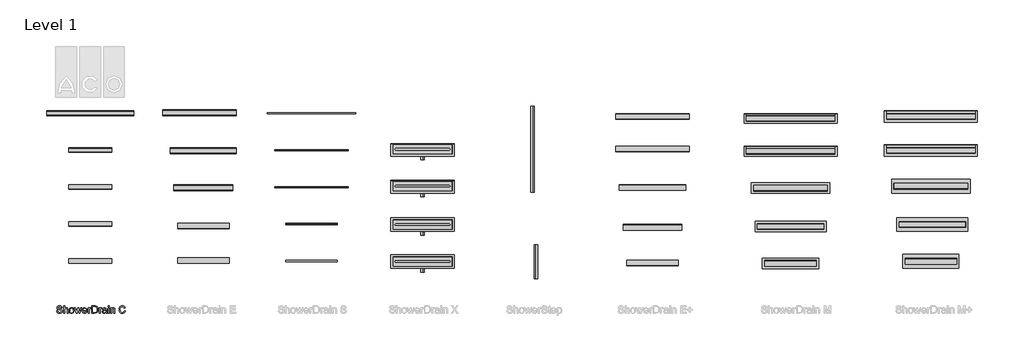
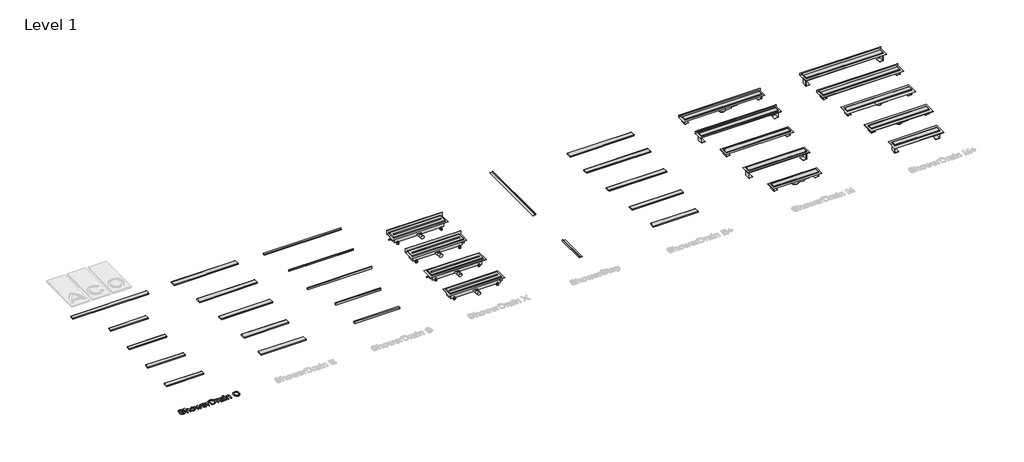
# One storey, part 1 of 3: 46 sanitary terminals, 4 pipe fittings, 1 proxy.
"""IFC4 building model written with IfcOpenShell, lengths in millimetres."""

from ifc_helpers import new_model, si_unit, origin, origin_with_axes, place, context, project, spatial, polyline, outline, extrude, transform, mapped, element, save
from components import std_nested_3c4184f0, flag_b67f4226, flag_560d45e0, flag_b26b8363, flag_c74ceb65, glass_black_c8336379, massive_920ba84a, piano_745113d3, solid_fc9fc66c, solid_5995f6f9, square_9a3e43a5, stripes_00212afd, stripes_9f4e3192, stripes_7ee481b2, tile_67cb4d68, horizontal_flange_236ca58d, horizontal_flange_b8bb8d62, horizontal_flange_0f5af5d9, horizontal_flange_2512d45c, horizontal_flange_630a0289, horizontal_flange_7874ed90, horizontal_flange_90231a54, horizontal_flange_18f63413, std_nested_bef6802e, std_nested_eaeeacca, wall_flange_076fe20c, wall_flange_3f105fa3, wall_flange_at_rear_5062b522, wall_flange_at_rear_d685a3a6, wall_flange_at_rear_e9290f7a, wall_flange_at_rear_4234e671

model = new_model("IFC4")

# Units and contexts
model_context = context("Model", 3, world=origin())
ifc_project = project(units=[si_unit("LENGTHUNIT", "METRE", prefix="MILLI")], contexts=[model_context])

# Site, building, storey
site = spatial("IfcSite", under=ifc_project)
building = spatial("IfcBuilding", under=site)
storey = spatial("IfcBuildingStorey", under=building, Name="Level 1", Elevation=0.0)

# Proxy
placement = place(None, origin())
element("IfcBuildingElementProxy", 1, Name="100mm ACO", ObjectType="100mm ACO", at=placement, inside=storey, context=model_context, shape_type="SweptSolid", body=[
    extrude(outline(polyline([(607.4074074, -629.6296296), (605.396412, -620.7356771), (600.9259259, -614.3663194), (584.6064815, -609.2592593), (568.9814815, -613.2378472), (564.4675926, -618.1242766), (562.962963, -624.8263889), (567.4334491, -634.8813657), (585.619213, -641.1747685), (605.4542824, -646.6579861), (618.6053241, -655.5844907), (622.7068866, -662.6663773), (624.0740741, -671.8171296), (621.5675637, -683.6552373), (614.0480324, -693.3015046), (602.4992766, -699.714265), (587.9050926, -701.8518519), (569.921875, -699.4791667), (557.1180556, -692.3611111), (549.3055556, -681.4670139), (546.2962963, -667.7662037), (559.2592593, -666.6666667), (561.8887442, -677.5426794), (568.0989583, -684.9971065), (576.9350405, -689.3048322), (587.4421296, -690.7407407), (604.5717593, -686.009838), (609.4762731, -680.4361979), (611.1111111, -673.1770833), (609.4220197, -665.8492477), (604.3547454, -660.8217593), (581.0763889, -653.3709491), (566.8655961, -649.0306713), (557.2771991, -643.1568287), (551.8192998, -635.5287905), (550.0, -625.9259259), (552.2822627, -614.9305556), (559.1290509, -606.0185185), (569.9110243, -600.1157407), (583.9988426, -598.1481481), (598.5604745, -600.1302083), (609.9537037, -606.0763889), (617.4623843, -615.6684028), (620.3703704, -628.587963), (607.4074074, -629.6296296)])), origin_with_axes(), (0.0, 0.0, 1.0), 10.0),
    extrude(outline(polyline([(700.0, -700.0), (687.037037, -700.0), (687.037037, -653.2986111), (683.3478009, -639.7135417), (672.337963, -635.1851852), (659.4039352, -640.5237269), (655.1287616, -647.9564525), (653.7037037, -659.5775463), (653.7037037, -700.0), (640.7407407, -700.0), (640.7407407, -600.0), (653.7037037, -600.0), (653.7037037, -635.8217593), (663.4042245, -628.3998843), (675.2604167, -625.9259259), (688.5416667, -628.7905093), (697.4392361, -637.6012731), (700.0, -654.1087963), (700.0, -700.0)])), origin_with_axes(), (0.0, 0.0, 1.0), 10.0),
    extrude(outline(polyline([(748.119213, -625.9259259), (761.2955729, -628.3203125), (772.0052083, -635.5034722), (779.1124132, -647.0992477), (781.4814815, -662.7314815), (778.9171007, -681.0040509), (771.2239583, -692.9976852), (760.3190104, -699.6383102), (748.119213, -701.8518519), (735.5287905, -699.5768229), (724.7251157, -692.7517361), (717.29239, -680.9859664), (714.8148148, -663.8888889), (717.2092014, -647.1715856), (724.3923611, -635.3298611), (735.1128472, -628.2769097), (748.119213, -625.9259259)]), holes=[polyline([(748.119213, -692.5925926), (756.92636, -690.5852141), (763.3246528, -684.5630787), (768.5185185, -663.4259259), (767.0500579, -651.1429398), (762.6446759, -642.3032407), (756.0763889, -636.9646991), (748.119213, -635.1851852), (740.0065104, -636.9900174), (733.4924769, -642.4045139), (729.2064525, -651.3925058), (727.7777778, -663.9178241), (729.2317708, -676.3997396), (733.59375, -685.3732639), (740.1331019, -690.7877604), (748.119213, -692.5925926)])]), origin_with_axes(), (0.0, 0.0, 1.0), 10.0),
    extrude(outline(polyline([(885.6481481, -627.7777778), (861.4293981, -700.0), (849.1608796, -700.0), (838.6574074, -656.5972222), (837.3553241, -650.7378472), (836.1111111, -644.3287037), (823.3506944, -700.0), (811.1111111, -700.0), (786.5740741, -627.7777778), (798.119213, -627.7777778), (815.7407407, -685.0115741), (817.8530093, -675.2604167), (828.8773148, -627.7777778), (843.4606481, -627.7777778), (852.1990741, -665.6539352), (856.25, -683.4490741), (874.1030093, -627.7777778), (885.6481481, -627.7777778)])), origin_with_axes(), (0.0, 0.0, 1.0), 10.0),
    extrude(outline(polyline([(959.2592593, -666.6666667), (905.5555556, -666.6666667), (907.6280382, -677.7922454), (912.3408565, -685.9375), (919.1225405, -690.9288194), (927.4016204, -692.5925926), (939.0769676, -688.9033565), (946.2962963, -677.7777778), (959.2592593, -679.2824074), (954.8828125, -688.9033565), (947.9456019, -696.0069444), (938.7008102, -700.390625), (927.4016204, -701.8518519), (912.8146701, -699.3453414), (901.8084491, -691.8258102), (894.8965567, -679.9660012), (892.5925926, -664.4386574), (894.8133681, -648.900463), (901.4756944, -636.6030093), (912.1744792, -628.5951968), (926.5046296, -625.9259259), (941.724537, -629.3836806), (954.1521991, -641.1603009), (957.9824942, -651.6963252), (959.2592593, -666.6666667)]), holes=[polyline([(946.2962963, -657.4074074), (944.212963, -647.2511574), (939.4675926, -640.3935185), (926.1863426, -635.1851852), (918.3304398, -636.7332176), (912.0081019, -641.3773148), (905.5555556, -657.4074074), (946.2962963, -657.4074074)])]), origin_with_axes(), (0.0, 0.0, 1.0), 10.0),
    extrude(outline(polyline([(1012.962963, -628.7615741), (1008.912037, -637.037037), (1000.4050926, -635.1851852), (994.6108218, -636.8127894), (990.4224537, -641.6956019), (987.037037, -659.9247685), (987.037037, -700.0), (974.0740741, -700.0), (974.0740741, -627.7777778), (985.1851852, -627.7777778), (985.1851852, -638.4837963), (992.115162, -629.0653935), (1000.5497685, -625.9259259), (1012.962963, -628.7615741)])), origin_with_axes(), (0.0, 0.0, 1.0), 10.0),
    extrude(outline(polyline([(1022.2222222, -600.0), (1056.25, -600.0), (1071.6435185, -600.9259259), (1083.9699074, -605.4253472), (1094.2563657, -615.2777778), (1101.1863426, -629.7019676), (1103.7037037, -649.4502315), (1101.1140046, -669.5855035), (1093.3449074, -685.7783565), (1079.260706, -696.4445891), (1057.7256944, -700.0), (1022.2222222, -700.0), (1022.2222222, -600.0)]), holes=[polyline([(1035.1851852, -688.8888889), (1056.5104167, -688.8888889), (1068.1568287, -688.0497685), (1078.5590278, -683.521412), (1087.2829861, -671.4265046), (1090.7407407, -649.1608796), (1089.4097222, -634.8668981), (1084.5196759, -622.7575231), (1076.3454861, -614.7569444), (1067.3466435, -611.6608796), (1056.1053241, -611.1111111), (1035.1851852, -611.1111111), (1035.1851852, -688.8888889)])]), origin_with_axes(), (0.0, 0.0, 1.0), 10.0),
    extrude(outline(polyline([(1159.2592593, -628.7615741), (1155.2083333, -637.037037), (1146.7013889, -635.1851852), (1140.9071181, -636.8127894), (1136.71875, -641.6956019), (1133.3333333, -659.9247685), (1133.3333333, -700.0), (1120.3703704, -700.0), (1120.3703704, -627.7777778), (1131.4814815, -627.7777778), (1131.4814815, -638.4837963), (1138.4114583, -629.0653935), (1146.8460648, -625.9259259), (1159.2592593, -628.7615741)])), origin_with_axes(), (0.0, 0.0, 1.0), 10.0),
    extrude(outline(polyline([(1229.6296296, -700.0), (1216.6666667, -700.0), (1212.962963, -691.2615741), (1200.4701968, -699.2042824), (1187.0081019, -701.8518519), (1177.0218461, -700.4050926), (1169.4010417, -696.0648148), (1164.5724826, -689.3518519), (1162.962963, -680.787037), (1164.5399306, -672.479022), (1169.2708333, -665.7841435), (1177.9007523, -660.8904803), (1191.1747685, -657.9861111), (1202.5173611, -656.25), (1212.962963, -653.7037037), (1212.6302083, -645.6741898), (1210.6915509, -640.7986111), (1205.5266204, -636.7332176), (1195.9490741, -635.1851852), (1183.8686343, -638.3246528), (1177.7777778, -650.0), (1164.8148148, -648.4085648), (1168.3702257, -638.599537), (1175.0434028, -631.568287), (1184.8271123, -627.3365162), (1197.7141204, -625.9259259), (1216.9704861, -629.7887731), (1224.5225694, -639.1059028), (1225.9259259, -653.1539352), (1225.9259259, -669.6759259), (1226.4756944, -689.9305556), (1229.6296296, -700.0)]), holes=[polyline([(1212.962963, -667.5925926), (1212.962963, -662.962963), (1189.6846065, -668.287037), (1179.3655961, -672.3451968), (1175.9259259, -680.5844907), (1179.6296296, -689.2071759), (1190.306713, -692.5925926), (1206.1197917, -686.9212963), (1211.2521701, -679.2534722), (1212.962963, -667.5925926)])]), origin_with_axes(), (0.0, 0.0, 1.0), 10.0),
    extrude(outline(polyline([(1257.4074074, -700.0), (1244.4444444, -700.0), (1244.4444444, -627.7777778), (1257.4074074, -627.7777778), (1257.4074074, -700.0)])), origin_with_axes(), (0.0, 0.0, 1.0), 10.0),
    extrude(outline(polyline([(1257.4074074, -612.962963), (1244.4444444, -612.962963), (1244.4444444, -600.0), (1257.4074074, -600.0), (1257.4074074, -612.962963)])), origin_with_axes(), (0.0, 0.0, 1.0), 10.0),
    extrude(outline(polyline([(1335.1851852, -700.0), (1322.2222222, -700.0), (1322.2222222, -655.0347222), (1318.359375, -639.4386574), (1307.6099537, -635.1851852), (1297.583912, -637.9050926), (1290.8709491, -645.5729167), (1288.8888889, -659.5775463), (1288.8888889, -700.0), (1275.9259259, -700.0), (1275.9259259, -627.7777778), (1287.037037, -627.7777778), (1287.037037, -637.818287), (1296.9328704, -628.8917824), (1310.1851852, -625.9259259), (1321.556713, -627.9803241), (1330.3530093, -634.1290509), (1334.3605324, -642.8674769), (1335.1851852, -655.4108796), (1335.1851852, -700.0)])), origin_with_axes(), (0.0, 0.0, 1.0), 10.0),
    extrude(outline(polyline([(1477.7777778, -668.1712963), (1471.8641493, -682.9969618), (1462.7459491, -693.5040509), (1450.958478, -699.7649016), (1437.037037, -701.8518519), (1416.1313657, -697.9962384), (1401.7939815, -686.4293981), (1393.5040509, -669.4372106), (1390.7407407, -649.3055556), (1393.9850984, -627.9188368), (1403.7181713, -611.7332176), (1418.5510706, -601.5444155), (1437.0949074, -598.1481481), (1450.4087095, -599.9602141), (1461.646412, -605.396412), (1470.3161169, -614.3265336), (1475.9259259, -626.6203704), (1462.962963, -629.6296296), (1453.1105324, -614.3663194), (1436.6030093, -609.2592593), (1422.3813657, -611.968316), (1412.0659722, -620.0954861), (1405.7942708, -632.7799479), (1403.7037037, -649.1608796), (1405.9172454, -667.5238715), (1412.5578704, -680.4832176), (1422.7575231, -688.17636), (1435.6481481, -690.7407407), (1446.2167245, -689.1239873), (1454.6006944, -684.2737269), (1460.8000579, -676.1754919), (1464.8148148, -664.8148148), (1477.7777778, -668.1712963)])), origin_with_axes(), (0.0, 0.0, 1.0), 10.0),
])

# Pipe fittings
std_nested_shape = std_nested_3c4184f0(model_context)
element("IfcPipeFitting", 2, ObjectType="ZZZ_do not use_PIF_GEN_WPB_gully for showerdrain M series watertrap 25_ACO : std (nested)", at=placement, inside=storey, context=model_context, shape_type="MappedRepresentation", body=[
    mapped(std_nested_shape, transform((10480.0855752, 1936.2984819, -17.0), x_axis=(0.9999876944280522, -0.004960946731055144, 0.0), y_axis=(0.004960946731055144, 0.9999876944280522, 0.0), z_axis=(0.0, 0.0, 1.0))),
])
element("IfcPipeFitting", 3, ObjectType="ZZZ_do not use_PIF_GEN_WPB_gully for showerdrain M series watertrap 25_ACO : std (nested)", at=placement, inside=storey, context=model_context, shape_type="MappedRepresentation", body=[
    mapped(std_nested_shape, transform((10480.0855752, -25.7015181, -17.0), x_axis=(0.9999876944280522, -0.004960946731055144, 0.0), y_axis=(0.004960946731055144, 0.9999876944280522, 0.0), z_axis=(0.0, 0.0, 1.0))),
])
element("IfcPipeFitting", 4, ObjectType="ZZZ_do not use_PIF_GEN_WPB_gully for showerdrain M series watertrap 25_ACO : std (nested)", at=placement, inside=storey, context=model_context, shape_type="MappedRepresentation", body=[
    mapped(std_nested_shape, transform((12384.2361111, 1021.0180125, -17.0), x_axis=(1.0, 0.0, 0.0), y_axis=(0.0, 1.0, 0.0), z_axis=(0.0, 0.0, 1.0))),
])
element("IfcPipeFitting", 5, ObjectType="ZZZ_do not use_PIF_GEN_WPB_gully for showerdrain M series watertrap 25_ACO : std (nested)", at=placement, inside=storey, context=model_context, shape_type="MappedRepresentation", body=[
    mapped(std_nested_shape, transform((12404.2361111, 501.0180125, -17.0), x_axis=(1.0, 0.0, 0.0), y_axis=(0.0, 1.0, 0.0), z_axis=(0.0, 0.0, 1.0))),
])

# Sanitary terminals
flag_shape = flag_b67f4226(model_context)
element("IfcSanitaryTerminal", 6, ObjectType="ZZZ_do not use_PF_ST_UN_grating for ShowerDrain E and M series_ACO : Flag", at=placement, inside=storey, context=model_context, shape_type="MappedRepresentation", body=[
    mapped(flag_shape, transform((10481.1111111, 1936.0180125, 15.0), x_axis=(1.0, 0.0, 0.0), y_axis=(0.0, 1.0, 0.0), z_axis=(0.0, 0.0, 1.0))),
])
element("IfcSanitaryTerminal", 7, ObjectType="ZZZ_do not use_PF_ST_UN_grating for ShowerDrain E and M series_ACO : Flag", at=placement, inside=storey, context=model_context, shape_type="MappedRepresentation", body=[
    mapped(flag_shape, transform((10481.1111111, 1494.0180125, 15.0), x_axis=(1.0, 0.0, 0.0), y_axis=(0.0, 1.0, 0.0), z_axis=(0.0, 0.0, 1.0))),
])
flag_2_shape = flag_560d45e0(model_context)
element("IfcSanitaryTerminal", 8, ObjectType="ZZZ_do not use_PF_ST_UN_grating for ShowerDrain E and M series_ACO : Flag", at=placement, inside=storey, context=model_context, shape_type="MappedRepresentation", body=[
    mapped(flag_2_shape, transform((12381.1111111, 1021.0180125, 15.0), x_axis=(1.0, 0.0, 0.0), y_axis=(0.0, 1.0, 0.0), z_axis=(0.0, 0.0, 1.0))),
])
flag_3_shape = flag_b26b8363(model_context)
element("IfcSanitaryTerminal", 9, ObjectType="ZZZ_do not use_PF_ST_UN_grating for ShowerDrain E and M series_ACO : Flag", at=placement, inside=storey, context=model_context, shape_type="MappedRepresentation", body=[
    mapped(flag_3_shape, transform((12401.1111111, 501.0180125, 15.0), x_axis=(1.0, 0.0, 0.0), y_axis=(0.0, 1.0, 0.0), z_axis=(0.0, 0.0, 1.0))),
])
flag_4_shape = flag_c74ceb65(model_context)
element("IfcSanitaryTerminal", 10, ObjectType="ZZZ_do not use_PF_ST_UN_grating for ShowerDrain E and M series_ACO : Flag", at=placement, inside=storey, context=model_context, shape_type="MappedRepresentation", body=[
    mapped(flag_4_shape, transform((12381.1111111, 1.0180125, 15.0), x_axis=(1.0, 0.0, 0.0), y_axis=(0.0, 1.0, 0.0), z_axis=(0.0, 0.0, 1.0))),
])
glass_black_shape = glass_black_c8336379(model_context)
element("IfcSanitaryTerminal", 11, ObjectType="ZZZ_do not use_PF_ST_UN_grating for ShowerDrain E and M series_ACO : Glass black", at=placement, inside=storey, context=model_context, shape_type="MappedRepresentation", body=[
    mapped(glass_black_shape, transform((2532.2236897, 14.0180125, 15.0), x_axis=(1.0, 0.0, 0.0), y_axis=(0.0, 1.0, 0.0), z_axis=(0.0, 0.0, 1.0))),
])
massive_shape = massive_920ba84a(model_context)
element("IfcSanitaryTerminal", 12, ObjectType="ZZZ_do not use_PF_ST_UN_grating for ShowerDrain C INT_ACO : Massive", at=placement, inside=storey, context=model_context, shape_type="MappedRepresentation", body=[
    mapped(massive_shape, transform((1000.0, 1007.0180125, 15.0), x_axis=(1.0, 0.0, 0.0), y_axis=(0.0, 1.0, 0.0), z_axis=(0.0, 0.0, 1.0))),
])
element("IfcSanitaryTerminal", 13, ObjectType="ZZZ_do not use_PF_ST_UN_grating for ShowerDrain E and M series_ACO : Piano", at=placement, inside=storey, context=model_context, shape_type="MappedRepresentation", body=[
    mapped(flag_4_shape, transform((8611.1111111, -21.9819875, 15.0), x_axis=(1.0, 0.0, 0.0), y_axis=(0.0, 1.0, 0.0), z_axis=(0.0, 0.0, 1.0))),
])
element("IfcSanitaryTerminal", 14, ObjectType="ZZZ_do not use_PF_ST_UN_grating for ShowerDrain E and M series_ACO : Piano", at=placement, inside=storey, context=model_context, shape_type="MappedRepresentation", body=[
    mapped(flag_4_shape, transform((10481.1111111, -25.9819875, 15.0), x_axis=(1.0, 0.0, 0.0), y_axis=(0.0, 1.0, 0.0), z_axis=(0.0, 0.0, 1.0))),
])
piano_shape = piano_745113d3(model_context)
element("IfcSanitaryTerminal", 15, ObjectType="ZZZ_do not use_PF_ST_UN_grating for ShowerDrain E and M series_ACO : Piano", at=placement, inside=storey, context=model_context, shape_type="MappedRepresentation", body=[
    mapped(piano_shape, transform((8611.1111111, 463.0180125, 15.0), x_axis=(1.0, 0.0, 0.0), y_axis=(0.0, 1.0, 0.0), z_axis=(0.0, 0.0, 1.0))),
])
element("IfcSanitaryTerminal", 16, ObjectType="ZZZ_do not use_PF_ST_UN_grating for ShowerDrain E and M series_ACO : Piano", at=placement, inside=storey, context=model_context, shape_type="MappedRepresentation", body=[
    mapped(flag_3_shape, transform((8611.1111111, 1003.0180125, 15.0), x_axis=(1.0, 0.0, 0.0), y_axis=(0.0, 1.0, 0.0), z_axis=(0.0, 0.0, 1.0))),
])
element("IfcSanitaryTerminal", 17, ObjectType="ZZZ_do not use_PF_ST_UN_grating for ShowerDrain E and M series_ACO : Piano", at=placement, inside=storey, context=model_context, shape_type="MappedRepresentation", body=[
    mapped(flag_3_shape, transform((10481.1111111, 474.0180125, 15.0), x_axis=(1.0, 0.0, 0.0), y_axis=(0.0, 1.0, 0.0), z_axis=(0.0, 0.0, 1.0))),
])
element("IfcSanitaryTerminal", 18, ObjectType="ZZZ_do not use_PF_ST_UN_grating for ShowerDrain E and M series_ACO : Piano", at=placement, inside=storey, context=model_context, shape_type="MappedRepresentation", body=[
    mapped(flag_2_shape, transform((8611.1111111, 1521.0180125, 15.0), x_axis=(1.0, 0.0, 0.0), y_axis=(0.0, 1.0, 0.0), z_axis=(0.0, 0.0, 1.0))),
])
element("IfcSanitaryTerminal", 19, ObjectType="ZZZ_do not use_PF_ST_UN_grating for ShowerDrain E and M series_ACO : Piano", at=placement, inside=storey, context=model_context, shape_type="MappedRepresentation", body=[
    mapped(flag_2_shape, transform((8611.1111111, 1963.0180125, 15.0), x_axis=(1.0, 0.0, 0.0), y_axis=(0.0, 1.0, 0.0), z_axis=(0.0, 0.0, 1.0))),
])
element("IfcSanitaryTerminal", 20, ObjectType="ZZZ_do not use_PF_ST_UN_grating for ShowerDrain E and M series_ACO : Piano", at=placement, inside=storey, context=model_context, shape_type="MappedRepresentation", body=[
    mapped(flag_2_shape, transform((10481.1111111, 994.0180125, 15.0), x_axis=(1.0, 0.0, 0.0), y_axis=(0.0, 1.0, 0.0), z_axis=(0.0, 0.0, 1.0))),
])
element("IfcSanitaryTerminal", 21, ObjectType="ZZZ_do not use_PF_ST_UN_grating for ShowerDrain E and M series_ACO : Piano", at=placement, inside=storey, context=model_context, shape_type="MappedRepresentation", body=[
    mapped(flag_shape, transform((12381.1111111, 1963.0180125, 15.0), x_axis=(1.0, 0.0, 0.0), y_axis=(0.0, 1.0, 0.0), z_axis=(0.0, 0.0, 1.0))),
])
element("IfcSanitaryTerminal", 22, ObjectType="ZZZ_do not use_PF_ST_UN_grating for ShowerDrain E and M series_ACO : Piano", at=placement, inside=storey, context=model_context, shape_type="MappedRepresentation", body=[
    mapped(flag_shape, transform((12381.1111111, 1503.0180125, 15.0), x_axis=(1.0, 0.0, 0.0), y_axis=(0.0, 1.0, 0.0), z_axis=(0.0, 0.0, 1.0))),
])
element("IfcSanitaryTerminal", 23, ObjectType="ZZZ_do not use_PF_ST_UN_grating for ShowerDrain E and M series_ACO : Quadrato", at=placement, inside=storey, context=model_context, shape_type="MappedRepresentation", body=[
    mapped(flag_4_shape, transform((2532.2236897, 479.0180125, 15.0), x_axis=(1.0, 0.0, 0.0), y_axis=(0.0, 1.0, 0.0), z_axis=(0.0, 0.0, 1.0))),
])
element("IfcSanitaryTerminal", 24, ObjectType="ZZZ_do not use_PF_ST_UN_grating for ShowerDrain E and M series_ACO : Quadrato", at=placement, inside=storey, context=model_context, shape_type="MappedRepresentation", body=[
    mapped(piano_shape, transform((2532.2236897, 999.0180125, 15.0), x_axis=(1.0, 0.0, 0.0), y_axis=(0.0, 1.0, 0.0), z_axis=(0.0, 0.0, 1.0))),
])
element("IfcSanitaryTerminal", 25, ObjectType="ZZZ_do not use_PF_ST_UN_grating for ShowerDrain E and M series_ACO : Quadrato", at=placement, inside=storey, context=model_context, shape_type="MappedRepresentation", body=[
    mapped(flag_3_shape, transform((2532.2236897, 1499.0180125, 15.0), x_axis=(1.0, 0.0, 0.0), y_axis=(0.0, 1.0, 0.0), z_axis=(0.0, 0.0, 1.0))),
])
element("IfcSanitaryTerminal", 26, ObjectType="ZZZ_do not use_PF_ST_UN_grating for ShowerDrain E and M series_ACO : Quadrato", at=placement, inside=storey, context=model_context, shape_type="MappedRepresentation", body=[
    mapped(flag_2_shape, transform((2482.2236897, 2014.0180125, 15.0), x_axis=(1.0, 0.0, 0.0), y_axis=(0.0, 1.0, 0.0), z_axis=(0.0, 0.0, 1.0))),
])
element("IfcSanitaryTerminal", 27, ObjectType="ZZZ_do not use_PF_ST_UN_grating for ShowerDrain C INT_ACO : Slot", at=placement, inside=storey, context=model_context, shape_type="MappedRepresentation", body=[
    mapped(massive_shape, transform((1000.0, 7.0180125, 15.0), x_axis=(1.0, 0.0, 0.0), y_axis=(0.0, 1.0, 0.0), z_axis=(0.0, 0.0, 1.0))),
])
solid_shape = solid_fc9fc66c(model_context)
element("IfcSanitaryTerminal", 28, ObjectType="ZZZ_do not use_PF_ST_UN_grating for ShowerDrain S_ACO : Solid", at=placement, inside=storey, context=model_context, shape_type="MappedRepresentation", body=[
    mapped(solid_shape, transform((3996.2962963, 2007.0180125, 11.0), x_axis=(1.0, 0.0, 0.0), y_axis=(0.0, 1.0, 0.0), z_axis=(0.0, 0.0, 1.0))),
])
solid_2_shape = solid_5995f6f9(model_context)
element("IfcSanitaryTerminal", 29, ObjectType="ZZZ_do not use_PF_ST_UN_grating for ShowerDrain S_ACO : Solid", at=placement, inside=storey, context=model_context, shape_type="MappedRepresentation", body=[
    mapped(solid_2_shape, transform((3996.2962963, 7.0180125, 22.0), x_axis=(1.0, 0.0, 0.0), y_axis=(0.0, 1.0, 0.0), z_axis=(0.0, 0.0, 1.0))),
])
element("IfcSanitaryTerminal", 30, ObjectType="ZZZ_do not use_PF_ST_UN_grating for ShowerDrain C INT_ACO : Square", at=placement, inside=storey, context=model_context, shape_type="MappedRepresentation", body=[
    mapped(massive_shape, transform((1000.0, 507.0180125, 15.0), x_axis=(1.0, 0.0, 0.0), y_axis=(0.0, 1.0, 0.0), z_axis=(0.0, 0.0, 1.0))),
])
square_shape = square_9a3e43a5(model_context)
element("IfcSanitaryTerminal", 31, ObjectType="ZZZ_do not use_PF_ST_UN_grating for ShowerDrain C INT_ACO : Square", at=placement, inside=storey, context=model_context, shape_type="MappedRepresentation", body=[
    mapped(square_shape, transform((1000.0, 2007.0180125, 15.0), x_axis=(1.0, 0.0, 0.0), y_axis=(0.0, 1.0, 0.0), z_axis=(0.0, 0.0, 1.0))),
])
stripes_shape = stripes_00212afd(model_context)
element("IfcSanitaryTerminal", 32, ObjectType="ZZZ_do not use_PF_ST_UN_grating for ShowerDrain S_ACO : Stripes", at=placement, inside=storey, context=model_context, shape_type="MappedRepresentation", body=[
    mapped(stripes_shape, transform((3996.2962963, 1507.0180125, 11.0), x_axis=(1.0, 0.0, 0.0), y_axis=(0.0, 1.0, 0.0), z_axis=(0.0, 0.0, 1.0))),
])
stripes_2_shape = stripes_9f4e3192(model_context)
element("IfcSanitaryTerminal", 33, ObjectType="ZZZ_do not use_PF_ST_UN_grating for ShowerDrain S_ACO : Stripes", at=placement, inside=storey, context=model_context, shape_type="MappedRepresentation", body=[
    mapped(stripes_2_shape, transform((3996.2962963, 1007.0180125, 22.0), x_axis=(1.0, 0.0, 0.0), y_axis=(0.0, 1.0, 0.0), z_axis=(0.0, 0.0, 1.0))),
])
stripes_3_shape = stripes_7ee481b2(model_context)
element("IfcSanitaryTerminal", 34, ObjectType="ZZZ_do not use_PF_ST_UN_grating for ShowerDrain S_ACO : Stripes", at=placement, inside=storey, context=model_context, shape_type="MappedRepresentation", body=[
    mapped(stripes_3_shape, transform((3996.2962963, 507.0180125, 22.0), x_axis=(1.0, 0.0, 0.0), y_axis=(0.0, 1.0, 0.0), z_axis=(0.0, 0.0, 1.0))),
])
tile_shape = tile_67cb4d68(model_context)
element("IfcSanitaryTerminal", 35, ObjectType="ZZZ_do not use_PF_ST_UN_grating for ShowerDrain C INT_ACO : Tile", at=placement, inside=storey, context=model_context, shape_type="MappedRepresentation", body=[
    mapped(tile_shape, transform((1000.0, 1507.0180125, 15.0), x_axis=(1.0, 0.0, 0.0), y_axis=(0.0, 1.0, 0.0), z_axis=(0.0, 0.0, 1.0))),
])
horizontal_flange_shape = horizontal_flange_236ca58d(model_context)
element("IfcSanitaryTerminal", 36, ObjectType="PF_ST_UN_ShowerDrain M plus_ACO : horizontal flange", at=placement, inside=storey, context=model_context, shape_type="MappedRepresentation", body=[
    mapped(horizontal_flange_shape, transform((12381.1111111, 1021.0180125, 0.0), x_axis=(1.0, 0.0, 0.0), y_axis=(0.0, 1.0, 0.0), z_axis=(0.0, 0.0, 1.0))),
])
horizontal_flange_2_shape = horizontal_flange_b8bb8d62(model_context)
element("IfcSanitaryTerminal", 37, ObjectType="PF_ST_UN_ShowerDrain M plus_ACO : horizontal flange", at=placement, inside=storey, context=model_context, shape_type="MappedRepresentation", body=[
    mapped(horizontal_flange_2_shape, transform((12401.1111111, 501.0180125, 0.0), x_axis=(1.0, 0.0, 0.0), y_axis=(0.0, 1.0, 0.0), z_axis=(0.0, 0.0, 1.0))),
])
horizontal_flange_3_shape = horizontal_flange_0f5af5d9(model_context)
element("IfcSanitaryTerminal", 38, ObjectType="PF_ST_UN_ShowerDrain M plus_ACO : horizontal flange", at=placement, inside=storey, context=model_context, shape_type="MappedRepresentation", body=[
    mapped(horizontal_flange_3_shape, transform((12381.1111111, 1.0180125, 0.0), x_axis=(1.0, 0.0, 0.0), y_axis=(0.0, 1.0, 0.0), z_axis=(0.0, 0.0, 1.0))),
])
horizontal_flange_4_shape = horizontal_flange_2512d45c(model_context)
element("IfcSanitaryTerminal", 39, ObjectType="PF_ST_UN_ShowerDrain M_ACO : horizontal flange", at=placement, inside=storey, context=model_context, shape_type="MappedRepresentation", body=[
    mapped(horizontal_flange_4_shape, transform((10481.1111111, 994.0180125, 0.0), x_axis=(1.0, 0.0, 0.0), y_axis=(0.0, 1.0, 0.0), z_axis=(0.0, 0.0, 1.0))),
])
horizontal_flange_5_shape = horizontal_flange_630a0289(model_context)
element("IfcSanitaryTerminal", 40, ObjectType="PF_ST_UN_ShowerDrain M_ACO : horizontal flange", at=placement, inside=storey, context=model_context, shape_type="MappedRepresentation", body=[
    mapped(horizontal_flange_5_shape, transform((10481.1111111, 474.0180125, 0.0), x_axis=(1.0, 0.0, 0.0), y_axis=(0.0, 1.0, 0.0), z_axis=(0.0, 0.0, 1.0))),
])
horizontal_flange_6_shape = horizontal_flange_7874ed90(model_context)
element("IfcSanitaryTerminal", 41, ObjectType="PF_ST_UN_ShowerDrain M_ACO : horizontal flange", at=placement, inside=storey, context=model_context, shape_type="MappedRepresentation", body=[
    mapped(horizontal_flange_6_shape, transform((10481.1111111, -25.9819875, 0.0), x_axis=(1.0, 0.0, 0.0), y_axis=(0.0, 1.0, 0.0), z_axis=(0.0, 0.0, 1.0))),
])
horizontal_flange_7_shape = horizontal_flange_90231a54(model_context)
element("IfcSanitaryTerminal", 42, ObjectType="PF_ST_UN_ShowerDrain X_ACO : horizontal flange", at=placement, inside=storey, context=model_context, shape_type="MappedRepresentation", body=[
    mapped(horizontal_flange_7_shape, transform((5500.0086079, 0.0180125, 0.0), x_axis=(1.0, 0.0, 0.0), y_axis=(0.0, 1.0, 0.0), z_axis=(0.0, 0.0, 1.0))),
])
horizontal_flange_8_shape = horizontal_flange_18f63413(model_context)
element("IfcSanitaryTerminal", 43, ObjectType="PF_ST_UN_ShowerDrain X_ACO : horizontal flange", at=placement, inside=storey, context=model_context, shape_type="MappedRepresentation", body=[
    mapped(horizontal_flange_8_shape, transform((5500.0086079, 500.0180125, 0.0), x_axis=(1.0, 0.0, 0.0), y_axis=(0.0, 1.0, 0.0), z_axis=(0.0, 0.0, 1.0))),
])
std_nested_2_shape = std_nested_bef6802e(model_context)
element("IfcSanitaryTerminal", 44, ObjectType="ZZZ_do not use_PF_ST_UN_ShowerStep_ACO : std (nested)", at=placement, inside=storey, context=model_context, shape_type="MappedRepresentation", body=[
    mapped(std_nested_2_shape, transform((7011.1111111, -229.9819875, 50.0), x_axis=(0.0, 1.0, 0.0), y_axis=(-1.0, 0.0, 0.0), z_axis=(0.0, 0.0, 1.0))),
])
std_nested_3_shape = std_nested_eaeeacca(model_context)
element("IfcSanitaryTerminal", 45, ObjectType="ZZZ_do not use_PF_ST_UN_ShowerStep_ACO : std (nested)", at=placement, inside=storey, context=model_context, shape_type="MappedRepresentation", body=[
    mapped(std_nested_3_shape, transform((7011.1111111, 940.0180125, 50.0), x_axis=(0.0, 1.0, 0.0), y_axis=(-1.0, 0.0, 0.0), z_axis=(0.0, 0.0, 1.0))),
])
wall_flange_shape = wall_flange_076fe20c(model_context)
element("IfcSanitaryTerminal", 46, ObjectType="PF_ST_UN_ShowerDrain X_ACO : wall flange", at=placement, inside=storey, context=model_context, shape_type="MappedRepresentation", body=[
    mapped(wall_flange_shape, transform((5500.0086079, 1520.0180125, 0.0), x_axis=(1.0, 0.0, 0.0), y_axis=(0.0, 1.0, 0.0), z_axis=(0.0, 0.0, 1.0))),
])
wall_flange_2_shape = wall_flange_3f105fa3(model_context)
element("IfcSanitaryTerminal", 47, ObjectType="PF_ST_UN_ShowerDrain X_ACO : wall flange", at=placement, inside=storey, context=model_context, shape_type="MappedRepresentation", body=[
    mapped(wall_flange_2_shape, transform((5500.0086079, 1020.0180125, 0.0), x_axis=(1.0, 0.0, 0.0), y_axis=(0.0, 1.0, 0.0), z_axis=(0.0, 0.0, 1.0))),
])
wall_flange_at_rear_shape = wall_flange_at_rear_5062b522(model_context)
element("IfcSanitaryTerminal", 48, ObjectType="PF_ST_UN_ShowerDrain M plus_ACO : wall flange at rear", at=placement, inside=storey, context=model_context, shape_type="MappedRepresentation", body=[
    mapped(wall_flange_at_rear_shape, transform((12381.1111111, 1963.0180125, 0.0), x_axis=(1.0, 0.0, 0.0), y_axis=(0.0, 1.0, 0.0), z_axis=(0.0, 0.0, 1.0))),
])
wall_flange_at_rear_2_shape = wall_flange_at_rear_d685a3a6(model_context)
element("IfcSanitaryTerminal", 49, ObjectType="PF_ST_UN_ShowerDrain M plus_ACO : wall flange at rear", at=placement, inside=storey, context=model_context, shape_type="MappedRepresentation", body=[
    mapped(wall_flange_at_rear_2_shape, transform((12381.1111111, 1503.0180125, 0.0), x_axis=(1.0, 0.0, 0.0), y_axis=(0.0, 1.0, 0.0), z_axis=(0.0, 0.0, 1.0))),
])
wall_flange_at_rear_3_shape = wall_flange_at_rear_e9290f7a(model_context)
element("IfcSanitaryTerminal", 50, ObjectType="PF_ST_UN_ShowerDrain M_ACO : wall flange at rear", at=placement, inside=storey, context=model_context, shape_type="MappedRepresentation", body=[
    mapped(wall_flange_at_rear_3_shape, transform((10481.1111111, 1494.0180125, 0.0), x_axis=(1.0, 0.0, 0.0), y_axis=(0.0, 1.0, 0.0), z_axis=(0.0, 0.0, 1.0))),
])
wall_flange_at_rear_4_shape = wall_flange_at_rear_4234e671(model_context)
element("IfcSanitaryTerminal", 51, ObjectType="PF_ST_UN_ShowerDrain M_ACO : wall flange at rear", at=placement, inside=storey, context=model_context, shape_type="MappedRepresentation", body=[
    mapped(wall_flange_at_rear_4_shape, transform((10481.1111111, 1936.0180125, 0.0), x_axis=(1.0, 0.0, 0.0), y_axis=(0.0, 1.0, 0.0), z_axis=(0.0, 0.0, 1.0))),
])

save(model, "model.ifc")
